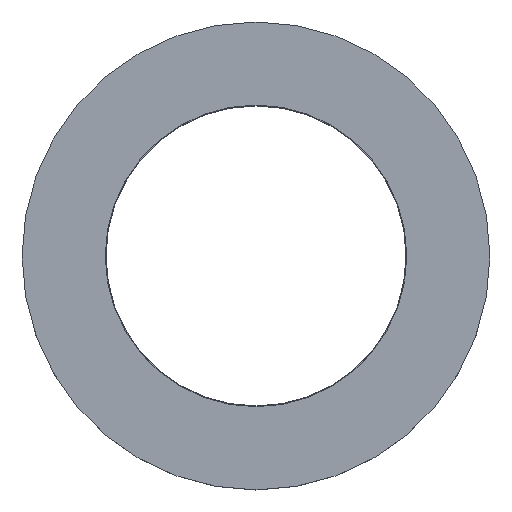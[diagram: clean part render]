
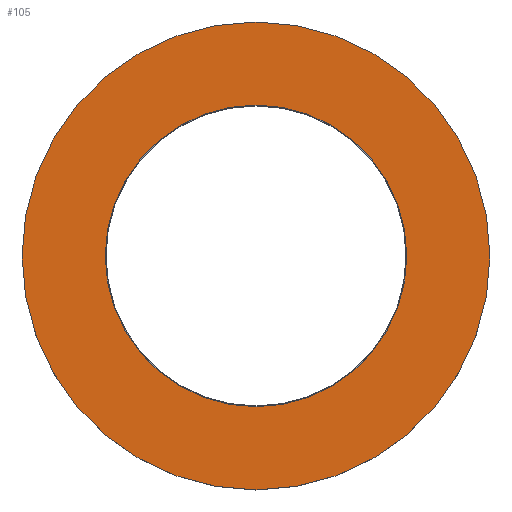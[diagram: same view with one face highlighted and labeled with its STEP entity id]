
A CAD part, top view. The second image highlights one B-rep face of the part: STEP entity #105.
In plain terms, the highlighted planar face has unit normal (0, 0, 1).
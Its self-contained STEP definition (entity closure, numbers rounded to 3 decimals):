
#21 = EDGE_CURVE('',#22,#22,#24,.T.);
#22 = VERTEX_POINT('',#23);
#23 = CARTESIAN_POINT('',(17.15,0.,0.));
#24 = SURFACE_CURVE('',#25,(#30,#42),.PCURVE_S1.);
#25 = CIRCLE('',#26,17.15);
#26 = AXIS2_PLACEMENT_3D('',#27,#28,#29);
#27 = CARTESIAN_POINT('',(0.,0.,0.));
#28 = DIRECTION('',(0.,0.,1.));
#29 = DIRECTION('',(1.,0.,-0.));
#30 = PCURVE('',#31,#36);
#31 = CYLINDRICAL_SURFACE('',#32,17.15);
#32 = AXIS2_PLACEMENT_3D('',#33,#34,#35);
#33 = CARTESIAN_POINT('',(0.,0.,-4.));
#34 = DIRECTION('',(0.,0.,1.));
#35 = DIRECTION('',(1.,0.,-0.));
#36 = DEFINITIONAL_REPRESENTATION('',(#37),#41);
#37 = LINE('',#38,#39);
#38 = CARTESIAN_POINT('',(0.,4.));
#39 = VECTOR('',#40,1.);
#40 = DIRECTION('',(1.,0.));
#41 = ( GEOMETRIC_REPRESENTATION_CONTEXT(2) 
PARAMETRIC_REPRESENTATION_CONTEXT() REPRESENTATION_CONTEXT('2D SPACE',''
  ) );
#42 = PCURVE('',#43,#48);
#43 = PLANE('',#44);
#44 = AXIS2_PLACEMENT_3D('',#45,#46,#47);
#45 = CARTESIAN_POINT('',(0.,0.,0.));
#46 = DIRECTION('',(0.,0.,1.));
#47 = DIRECTION('',(1.,0.,-0.));
#48 = DEFINITIONAL_REPRESENTATION('',(#49),#53);
#49 = CIRCLE('',#50,17.15);
#50 = AXIS2_PLACEMENT_2D('',#51,#52);
#51 = CARTESIAN_POINT('',(0.,0.));
#52 = DIRECTION('',(1.,0.));
#53 = ( GEOMETRIC_REPRESENTATION_CONTEXT(2) 
PARAMETRIC_REPRESENTATION_CONTEXT() REPRESENTATION_CONTEXT('2D SPACE',''
  ) );
#105 = ADVANCED_FACE('',(#106,#109),#43,.T.);
#106 = FACE_BOUND('',#107,.T.);
#107 = EDGE_LOOP('',(#108));
#108 = ORIENTED_EDGE('',*,*,#21,.T.);
#109 = FACE_BOUND('',#110,.T.);
#110 = EDGE_LOOP('',(#111));
#111 = ORIENTED_EDGE('',*,*,#112,.F.);
#112 = EDGE_CURVE('',#113,#113,#115,.T.);
#113 = VERTEX_POINT('',#114);
#114 = CARTESIAN_POINT('',(11.05,0.,0.));
#115 = SURFACE_CURVE('',#116,(#121,#128),.PCURVE_S1.);
#116 = CIRCLE('',#117,11.05);
#117 = AXIS2_PLACEMENT_3D('',#118,#119,#120);
#118 = CARTESIAN_POINT('',(0.,0.,0.));
#119 = DIRECTION('',(0.,0.,1.));
#120 = DIRECTION('',(1.,0.,-0.));
#121 = PCURVE('',#43,#122);
#122 = DEFINITIONAL_REPRESENTATION('',(#123),#127);
#123 = CIRCLE('',#124,11.05);
#124 = AXIS2_PLACEMENT_2D('',#125,#126);
#125 = CARTESIAN_POINT('',(0.,0.));
#126 = DIRECTION('',(1.,0.));
#127 = ( GEOMETRIC_REPRESENTATION_CONTEXT(2) 
PARAMETRIC_REPRESENTATION_CONTEXT() REPRESENTATION_CONTEXT('2D SPACE',''
  ) );
#128 = PCURVE('',#129,#134);
#129 = CYLINDRICAL_SURFACE('',#130,11.05);
#130 = AXIS2_PLACEMENT_3D('',#131,#132,#133);
#131 = CARTESIAN_POINT('',(0.,0.,0.));
#132 = DIRECTION('',(0.,0.,1.));
#133 = DIRECTION('',(1.,0.,-0.));
#134 = DEFINITIONAL_REPRESENTATION('',(#135),#139);
#135 = LINE('',#136,#137);
#136 = CARTESIAN_POINT('',(0.,0.));
#137 = VECTOR('',#138,1.);
#138 = DIRECTION('',(1.,0.));
#139 = ( GEOMETRIC_REPRESENTATION_CONTEXT(2) 
PARAMETRIC_REPRESENTATION_CONTEXT() REPRESENTATION_CONTEXT('2D SPACE',''
  ) );
